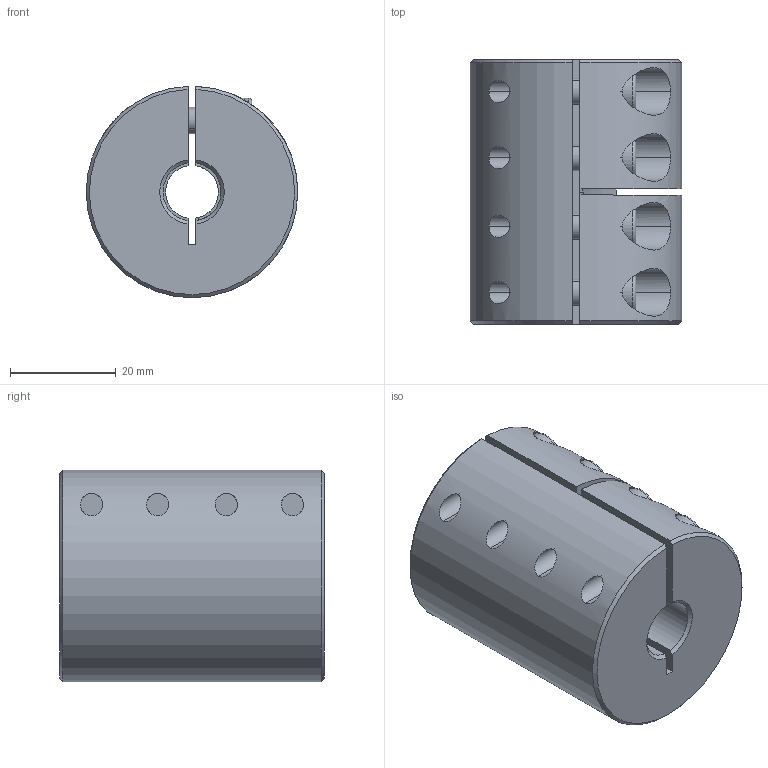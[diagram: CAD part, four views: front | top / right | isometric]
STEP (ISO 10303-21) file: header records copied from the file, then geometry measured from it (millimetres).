
FILE_DESCRIPTION (( 'STEP AP214' ), '1' );
FILE_NAME ('LL-B-D40L50-10-11½¨Ä£.STEP', '2022-07-22T00:11:02', ( '' ), ( '' ), 'SwSTEP 2.0', 'SolidWorks 2022', '' );
FILE_SCHEMA (( 'AUTOMOTIVE_DESIGN' ));
Length unit declared in the file: millimetre
Products named in the file (1): LL-B-D40L50-10-11膘耀
Bounding box: 40 x 50 x 39.99 mm (x, y, z)
Volume: 54938.6 mm3; surface area: 15536.2 mm2
Topology: 1 solids, 1 shells, 182 faces, 463 edges, 291 vertices
Faces by surface type: plane 88, cylinder 71, cone 15, torus 8
Entity records: 6015 total; most frequent: CARTESIAN_POINT 1525, DIRECTION 971, ORIENTED_EDGE 910, EDGE_CURVE 455, AXIS2_PLACEMENT_3D 377, VERTEX_POINT 291, LINE 217, VECTOR 217
